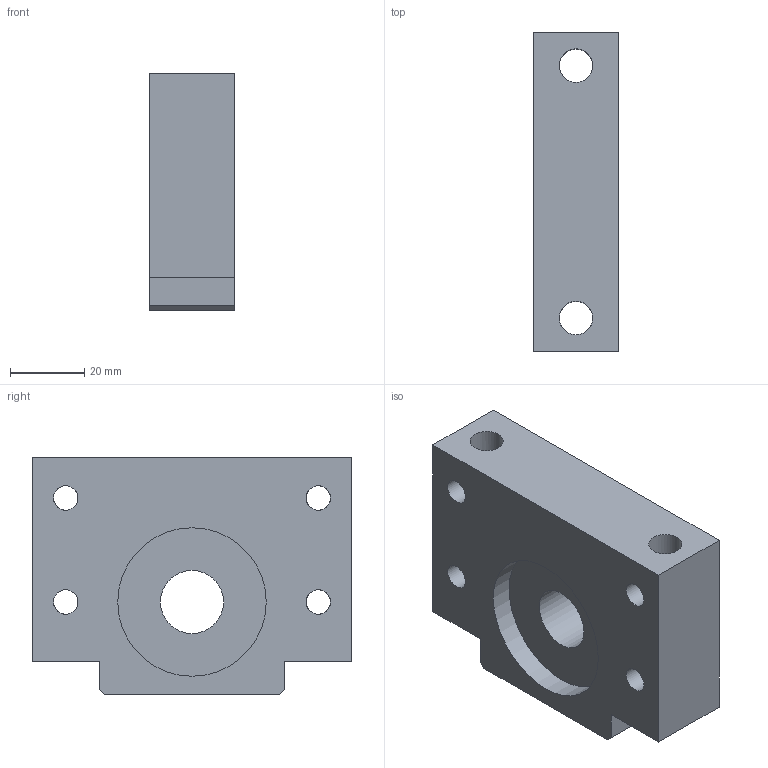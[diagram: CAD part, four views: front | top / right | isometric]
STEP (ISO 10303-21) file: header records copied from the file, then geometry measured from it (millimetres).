
FILE_DESCRIPTION(/* description */ (''),/* implementation_level */ '2;1');
FILE_NAME(/* name */ 'BF17.stp',/* time_stamp */ '2018-11-29T08:31:17+08:00',/* author */ (''),/* organization */ (''),/* preprocessor_version */ 'ST-DEVELOPER v14',/* originating_system */ 'SIEMENS PLM Software NX 8.0',/* authorisation */ '');
FILE_SCHEMA (('AUTOMOTIVE_DESIGN { 1 0 10303 214 3 1 1 1 }'));
Length unit declared in the file: millimetre
Products named in the file (3): BF17-SUB; 7203; BF17
Assembly tree (2 placements, depth 2):
  BF17
    7203
    BF17-SUB
Bounding box: 23 x 86 x 64 mm (x, y, z)
Volume: 92008.1 mm3; surface area: 25629.9 mm2
Topology: 2 solids, 2 shells, 31 faces, 92 edges, 63 vertices
Faces by surface type: plane 16, cylinder 15
Full cylindrical faces by diameter (mm): 6.6 x8, 9 x2, 14 x2, 17 x1, 40 x2
Entity records: 1072 total; most frequent: CARTESIAN_POINT 280, DIRECTION 142, ORIENTED_EDGE 120, EDGE_LOOP 72, FACE_BOUND 65, EDGE_CURVE 60, AXIS2_PLACEMENT_3D 56, VERTEX_POINT 50
